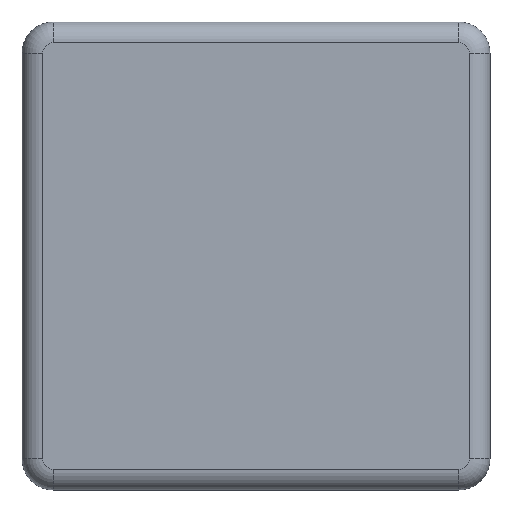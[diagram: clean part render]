
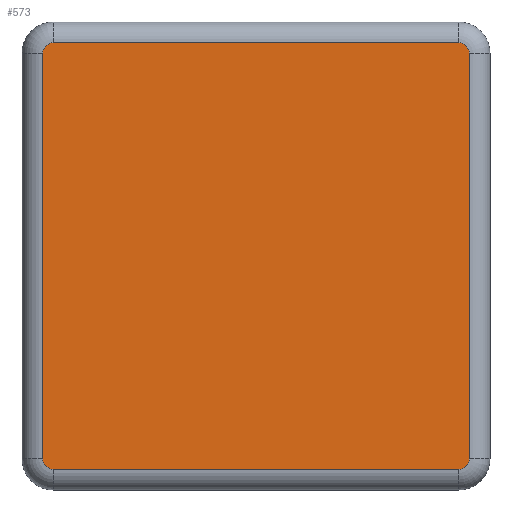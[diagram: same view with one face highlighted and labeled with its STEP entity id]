
A CAD part, front view. The second image highlights one B-rep face of the part: STEP entity #573.
In plain terms, the highlighted planar face has unit normal (0, -1, 0).
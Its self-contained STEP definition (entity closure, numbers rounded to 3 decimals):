
#3 = EDGE_CURVE ( 'NONE', #288, #1075, #738, .T. ) ;
#37 = CARTESIAN_POINT ( 'NONE',  ( 19.5, -4., 20.5 ) ) ;
#38 = ORIENTED_EDGE ( 'NONE', *, *, #1143, .T. ) ;
#64 = LINE ( 'NONE', #331, #1004 ) ;
#75 = DIRECTION ( 'NONE',  ( -1., 0., 0. ) ) ;
#79 = EDGE_CURVE ( 'NONE', #1075, #1179, #64, .T. ) ;
#160 = EDGE_CURVE ( 'NONE', #1179, #878, #1163, .T. ) ;
#166 = EDGE_LOOP ( 'NONE', ( #669, #38, #1252, #655, #409, #1142, #526, #625 ) ) ;
#224 = EDGE_CURVE ( 'NONE', #878, #1092, #842, .T. ) ;
#241 = VECTOR ( 'NONE', #1068, 1000. ) ;
#247 = AXIS2_PLACEMENT_3D ( 'NONE', #839, #1038, #750 ) ;
#273 = EDGE_CURVE ( 'NONE', #1092, #571, #1222, .T. ) ;
#288 = VERTEX_POINT ( 'NONE', #1309 ) ;
#320 = DIRECTION ( 'NONE',  ( 0., 0., 1. ) ) ;
#322 = CARTESIAN_POINT ( 'NONE',  ( -19.5, -4., 20.5 ) ) ;
#331 = CARTESIAN_POINT ( 'NONE',  ( 20.5, -4., 19.5 ) ) ;
#337 = AXIS2_PLACEMENT_3D ( 'NONE', #780, #696, #490 ) ;
#359 = DIRECTION ( 'NONE',  ( 1., 0., 0. ) ) ;
#409 = ORIENTED_EDGE ( 'NONE', *, *, #79, .T. ) ;
#411 = VECTOR ( 'NONE', #359, 1000. ) ;
#430 = DIRECTION ( 'NONE',  ( 0., -1., 0. ) ) ;
#447 = LINE ( 'NONE', #975, #411 ) ;
#490 = DIRECTION ( 'NONE',  ( 0., 0., 1. ) ) ;
#493 = CARTESIAN_POINT ( 'NONE',  ( -20.5, -4., -19.5 ) ) ;
#510 = PLANE ( 'NONE',  #922 ) ;
#526 = ORIENTED_EDGE ( 'NONE', *, *, #224, .T. ) ;
#534 = LINE ( 'NONE', #563, #241 ) ;
#536 = VERTEX_POINT ( 'NONE', #600 ) ;
#563 = CARTESIAN_POINT ( 'NONE',  ( -20.5, -4., -19.5 ) ) ;
#571 = VERTEX_POINT ( 'NONE', #805 ) ;
#573 = ADVANCED_FACE ( 'NONE', ( #735 ), #510, .F. ) ;
#600 = CARTESIAN_POINT ( 'NONE',  ( -19.5, -4., -20.5 ) ) ;
#606 = CARTESIAN_POINT ( 'NONE',  ( 0., -4., 0. ) ) ;
#625 = ORIENTED_EDGE ( 'NONE', *, *, #273, .T. ) ;
#642 = CARTESIAN_POINT ( 'NONE',  ( -19.5, -4., -19.5 ) ) ;
#655 = ORIENTED_EDGE ( 'NONE', *, *, #3, .T. ) ;
#669 = ORIENTED_EDGE ( 'NONE', *, *, #820, .T. ) ;
#696 = DIRECTION ( 'NONE',  ( 0., -1., 0. ) ) ;
#723 = DIRECTION ( 'NONE',  ( 0., 0., 1. ) ) ;
#735 = FACE_OUTER_BOUND ( 'NONE', #166, .T. ) ;
#738 = CIRCLE ( 'NONE', #247, 1. ) ;
#747 = DIRECTION ( 'NONE',  ( 0., 0., 1. ) ) ;
#750 = DIRECTION ( 'NONE',  ( 0., 0., 1. ) ) ;
#780 = CARTESIAN_POINT ( 'NONE',  ( 19.5, -4., 19.5 ) ) ;
#801 = CIRCLE ( 'NONE', #807, 1. ) ;
#805 = CARTESIAN_POINT ( 'NONE',  ( -20.5, -4., 19.5 ) ) ;
#807 = AXIS2_PLACEMENT_3D ( 'NONE', #642, #1327, #747 ) ;
#820 = EDGE_CURVE ( 'NONE', #571, #905, #534, .T. ) ;
#826 = CARTESIAN_POINT ( 'NONE',  ( 20.5, -4., -19.5 ) ) ;
#827 = AXIS2_PLACEMENT_3D ( 'NONE', #1025, #430, #1121 ) ;
#839 = CARTESIAN_POINT ( 'NONE',  ( 19.5, -4., -19.5 ) ) ;
#842 = LINE ( 'NONE', #1017, #1112 ) ;
#878 = VERTEX_POINT ( 'NONE', #37 ) ;
#905 = VERTEX_POINT ( 'NONE', #493 ) ;
#922 = AXIS2_PLACEMENT_3D ( 'NONE', #606, #1297, #723 ) ;
#975 = CARTESIAN_POINT ( 'NONE',  ( 19.5, -4., -20.5 ) ) ;
#1004 = VECTOR ( 'NONE', #320, 1000. ) ;
#1017 = CARTESIAN_POINT ( 'NONE',  ( -19.5, -4., 20.5 ) ) ;
#1025 = CARTESIAN_POINT ( 'NONE',  ( -19.5, -4., 19.5 ) ) ;
#1038 = DIRECTION ( 'NONE',  ( 0., -1., 0. ) ) ;
#1046 = CARTESIAN_POINT ( 'NONE',  ( 20.5, -4., 19.5 ) ) ;
#1068 = DIRECTION ( 'NONE',  ( 0., 0., -1. ) ) ;
#1075 = VERTEX_POINT ( 'NONE', #826 ) ;
#1092 = VERTEX_POINT ( 'NONE', #322 ) ;
#1112 = VECTOR ( 'NONE', #75, 1000. ) ;
#1121 = DIRECTION ( 'NONE',  ( 0., 0., 1. ) ) ;
#1142 = ORIENTED_EDGE ( 'NONE', *, *, #160, .T. ) ;
#1143 = EDGE_CURVE ( 'NONE', #905, #536, #801, .T. ) ;
#1163 = CIRCLE ( 'NONE', #337, 1. ) ;
#1179 = VERTEX_POINT ( 'NONE', #1046 ) ;
#1222 = CIRCLE ( 'NONE', #827, 1. ) ;
#1243 = EDGE_CURVE ( 'NONE', #536, #288, #447, .T. ) ;
#1252 = ORIENTED_EDGE ( 'NONE', *, *, #1243, .T. ) ;
#1297 = DIRECTION ( 'NONE',  ( 0., 1., 0. ) ) ;
#1309 = CARTESIAN_POINT ( 'NONE',  ( 19.5, -4., -20.5 ) ) ;
#1327 = DIRECTION ( 'NONE',  ( 0., -1., 0. ) ) ;
